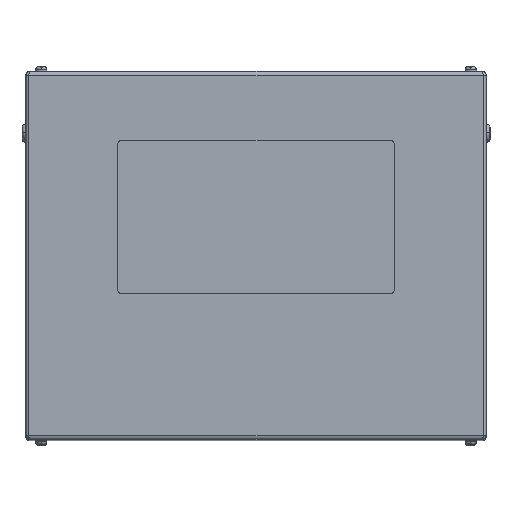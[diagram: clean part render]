
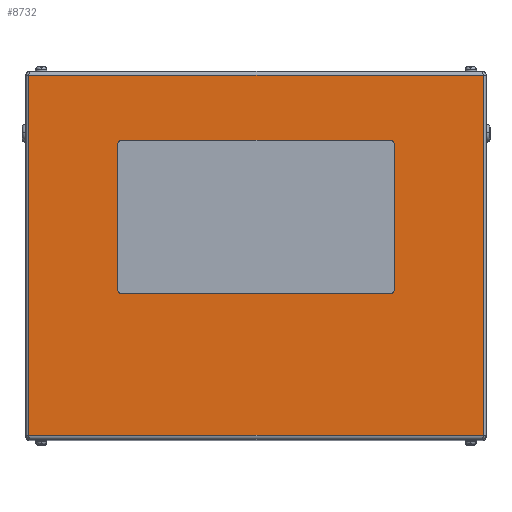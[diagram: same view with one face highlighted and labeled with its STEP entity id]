
A CAD part, top view. The second image highlights one B-rep face of the part: STEP entity #8732.
In plain terms, the highlighted planar face has unit normal (0, 0, 1).
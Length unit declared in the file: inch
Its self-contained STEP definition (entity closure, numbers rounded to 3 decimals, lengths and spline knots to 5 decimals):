
#103 = ORIENTED_EDGE ( 'NONE', *, *, #13485, .F. ) ;
#217 = CARTESIAN_POINT ( 'NONE',  ( 9., 7.25, 23. ) ) ;
#553 = EDGE_CURVE ( 'NONE', #4561, #2631, #19731, .T. ) ;
#738 = CARTESIAN_POINT ( 'NONE',  ( 9., 7.25, 23. ) ) ;
#743 = EDGE_LOOP ( 'NONE', ( #10108, #7407, #17598, #19097 ) ) ;
#1062 = VECTOR ( 'NONE', #15467, 39.37008 ) ;
#1140 = VERTEX_POINT ( 'NONE', #4320 ) ;
#1347 = DIRECTION ( 'NONE',  ( 0., 0., -1. ) ) ;
#1383 = VECTOR ( 'NONE', #19063, 39.37008 ) ;
#1436 = CARTESIAN_POINT ( 'NONE',  ( 8.75, -2.5, 23. ) ) ;
#1551 = AXIS2_PLACEMENT_3D ( 'NONE', #8998, #1347, #7500 ) ;
#1634 = PLANE ( 'NONE',  #1551 ) ;
#1835 = LINE ( 'NONE', #5170, #5641 ) ;
#2142 = EDGE_LOOP ( 'NONE', ( #103, #5319, #12584, #2662, #8962, #2656, #9597, #11537 ) ) ;
#2253 = CARTESIAN_POINT ( 'NONE',  ( -9., 7.25, 23. ) ) ;
#2631 = VERTEX_POINT ( 'NONE', #13631 ) ;
#2656 = ORIENTED_EDGE ( 'NONE', *, *, #6508, .F. ) ;
#2662 = ORIENTED_EDGE ( 'NONE', *, *, #19685, .F. ) ;
#2808 = CARTESIAN_POINT ( 'NONE',  ( -14.8, 12., 23. ) ) ;
#3186 = CARTESIAN_POINT ( 'NONE',  ( 14.8, -11.734, 23. ) ) ;
#3319 = EDGE_CURVE ( 'NONE', #17976, #14332, #7915, .T. ) ;
#3428 = DIRECTION ( 'NONE',  ( 1., 0., 0. ) ) ;
#3595 = CARTESIAN_POINT ( 'NONE',  ( -8.75, 7.25, 23. ) ) ;
#3784 = CARTESIAN_POINT ( 'NONE',  ( 14.8, 11.734, 23. ) ) ;
#3809 = VECTOR ( 'NONE', #8394, 39.37008 ) ;
#4320 = CARTESIAN_POINT ( 'NONE',  ( 8.75, 7.5, 23. ) ) ;
#4393 = EDGE_CURVE ( 'NONE', #2631, #13171, #13368, .T. ) ;
#4561 = VERTEX_POINT ( 'NONE', #17474 ) ;
#4919 = CARTESIAN_POINT ( 'NONE',  ( -8.75, 7.5, 23. ) ) ;
#5170 = CARTESIAN_POINT ( 'NONE',  ( -8.75, -2.5, 23. ) ) ;
#5319 = ORIENTED_EDGE ( 'NONE', *, *, #19186, .F. ) ;
#5641 = VECTOR ( 'NONE', #11293, 39.37008 ) ;
#5648 = LINE ( 'NONE', #14677, #3809 ) ;
#5958 = DIRECTION ( 'NONE',  ( -1., 0., 0. ) ) ;
#6074 = FACE_OUTER_BOUND ( 'NONE', #743, .T. ) ;
#6508 = EDGE_CURVE ( 'NONE', #7747, #1140, #9298, .T. ) ;
#6628 = DIRECTION ( 'NONE',  ( 0., 0., 1. ) ) ;
#7407 = ORIENTED_EDGE ( 'NONE', *, *, #4393, .T. ) ;
#7500 = DIRECTION ( 'NONE',  ( -1., 0., 0. ) ) ;
#7747 = VERTEX_POINT ( 'NONE', #738 ) ;
#7849 = LINE ( 'NONE', #13849, #18938 ) ;
#7880 = DIRECTION ( 'NONE',  ( 0., 0., 1. ) ) ;
#7915 = CIRCLE ( 'NONE', #12680, 0.25 ) ;
#8000 = DIRECTION ( 'NONE',  ( 0., 1., 0. ) ) ;
#8394 = DIRECTION ( 'NONE',  ( -1., 0., 0. ) ) ;
#8732 = ADVANCED_FACE ( 'NONE', ( #10407, #6074 ), #1634, .F. ) ;
#8962 = ORIENTED_EDGE ( 'NONE', *, *, #15525, .F. ) ;
#8998 = CARTESIAN_POINT ( 'NONE',  ( 15., 12., 23. ) ) ;
#9043 = VERTEX_POINT ( 'NONE', #3784 ) ;
#9203 = EDGE_CURVE ( 'NONE', #9043, #4561, #12838, .T. ) ;
#9278 = DIRECTION ( 'NONE',  ( 0., 0., 1. ) ) ;
#9298 = CIRCLE ( 'NONE', #13802, 0.25 ) ;
#9597 = ORIENTED_EDGE ( 'NONE', *, *, #18906, .F. ) ;
#10108 = ORIENTED_EDGE ( 'NONE', *, *, #553, .T. ) ;
#10407 = FACE_BOUND ( 'NONE', #2142, .T. ) ;
#11179 = VERTEX_POINT ( 'NONE', #18452 ) ;
#11293 = DIRECTION ( 'NONE',  ( 1., 0., 0. ) ) ;
#11537 = ORIENTED_EDGE ( 'NONE', *, *, #3319, .F. ) ;
#12282 = CARTESIAN_POINT ( 'NONE',  ( 8.75, 7.25, 23. ) ) ;
#12517 = CARTESIAN_POINT ( 'NONE',  ( 15., 11.734, 23. ) ) ;
#12584 = ORIENTED_EDGE ( 'NONE', *, *, #17622, .F. ) ;
#12680 = AXIS2_PLACEMENT_3D ( 'NONE', #12802, #17531, #3428 ) ;
#12775 = DIRECTION ( 'NONE',  ( 1., 0., 0. ) ) ;
#12802 = CARTESIAN_POINT ( 'NONE',  ( 8.75, -2.25, 23. ) ) ;
#12838 = LINE ( 'NONE', #12517, #1383 ) ;
#13171 = VERTEX_POINT ( 'NONE', #3186 ) ;
#13368 = LINE ( 'NONE', #16675, #16397 ) ;
#13485 = EDGE_CURVE ( 'NONE', #11179, #17976, #1835, .T. ) ;
#13631 = CARTESIAN_POINT ( 'NONE',  ( -14.8, -11.734, 23. ) ) ;
#13802 = AXIS2_PLACEMENT_3D ( 'NONE', #12282, #7880, #5958 ) ;
#13849 = CARTESIAN_POINT ( 'NONE',  ( 14.8, 12., 23. ) ) ;
#13890 = VERTEX_POINT ( 'NONE', #4919 ) ;
#14062 = CARTESIAN_POINT ( 'NONE',  ( -9., 7.25, 23. ) ) ;
#14186 = AXIS2_PLACEMENT_3D ( 'NONE', #18435, #9278, #18336 ) ;
#14332 = VERTEX_POINT ( 'NONE', #19085 ) ;
#14659 = VERTEX_POINT ( 'NONE', #2253 ) ;
#14677 = CARTESIAN_POINT ( 'NONE',  ( -8.75, 7.5, 23. ) ) ;
#14851 = CIRCLE ( 'NONE', #14186, 0.25 ) ;
#15467 = DIRECTION ( 'NONE',  ( 0., -1., 0. ) ) ;
#15525 = EDGE_CURVE ( 'NONE', #1140, #13890, #5648, .T. ) ;
#15717 = CIRCLE ( 'NONE', #17337, 0.25 ) ;
#15780 = VECTOR ( 'NONE', #8000, 39.37008 ) ;
#15849 = CARTESIAN_POINT ( 'NONE',  ( -9., -2.25, 23. ) ) ;
#15877 = EDGE_CURVE ( 'NONE', #13171, #9043, #7849, .T. ) ;
#15918 = VERTEX_POINT ( 'NONE', #15849 ) ;
#16397 = VECTOR ( 'NONE', #19306, 39.37008 ) ;
#16675 = CARTESIAN_POINT ( 'NONE',  ( 14.8, -11.734, 23. ) ) ;
#16927 = LINE ( 'NONE', #217, #15780 ) ;
#17337 = AXIS2_PLACEMENT_3D ( 'NONE', #3595, #6628, #12775 ) ;
#17474 = CARTESIAN_POINT ( 'NONE',  ( -14.8, 11.734, 23. ) ) ;
#17531 = DIRECTION ( 'NONE',  ( 0., 0., 1. ) ) ;
#17598 = ORIENTED_EDGE ( 'NONE', *, *, #15877, .T. ) ;
#17622 = EDGE_CURVE ( 'NONE', #14659, #15918, #18508, .T. ) ;
#17976 = VERTEX_POINT ( 'NONE', #1436 ) ;
#18293 = DIRECTION ( 'NONE',  ( 0., 1., 0. ) ) ;
#18336 = DIRECTION ( 'NONE',  ( 1., 0., 0. ) ) ;
#18435 = CARTESIAN_POINT ( 'NONE',  ( -8.75, -2.25, 23. ) ) ;
#18452 = CARTESIAN_POINT ( 'NONE',  ( -8.75, -2.5, 23. ) ) ;
#18508 = LINE ( 'NONE', #14062, #1062 ) ;
#18906 = EDGE_CURVE ( 'NONE', #14332, #7747, #16927, .T. ) ;
#18938 = VECTOR ( 'NONE', #18293, 39.37008 ) ;
#19063 = DIRECTION ( 'NONE',  ( -1., 0., 0. ) ) ;
#19085 = CARTESIAN_POINT ( 'NONE',  ( 9., -2.25, 23. ) ) ;
#19097 = ORIENTED_EDGE ( 'NONE', *, *, #9203, .T. ) ;
#19186 = EDGE_CURVE ( 'NONE', #15918, #11179, #14851, .T. ) ;
#19306 = DIRECTION ( 'NONE',  ( 1., 0., 0. ) ) ;
#19456 = VECTOR ( 'NONE', #19824, 39.37008 ) ;
#19685 = EDGE_CURVE ( 'NONE', #13890, #14659, #15717, .T. ) ;
#19731 = LINE ( 'NONE', #2808, #19456 ) ;
#19824 = DIRECTION ( 'NONE',  ( 0., -1., 0. ) ) ;
